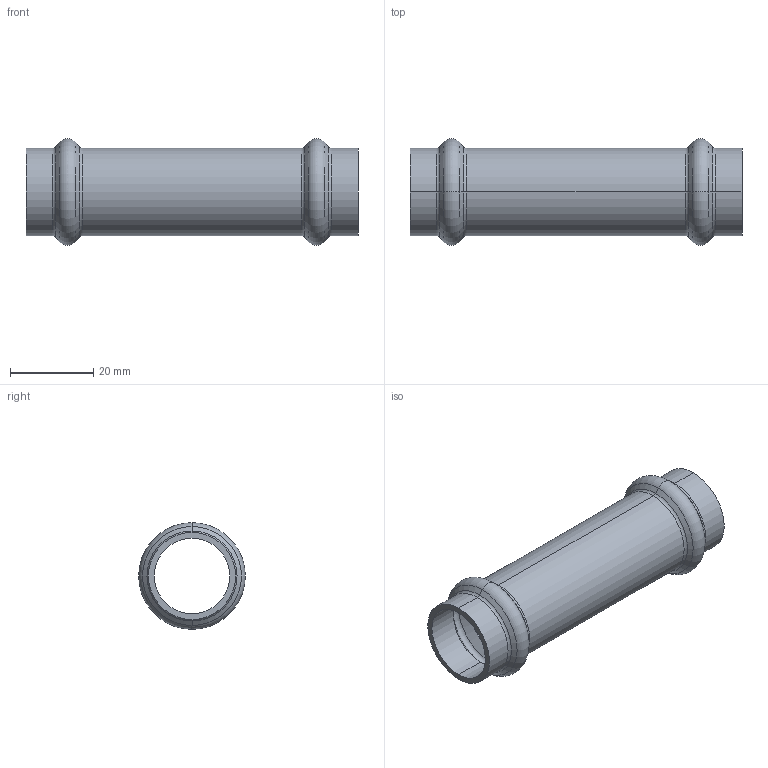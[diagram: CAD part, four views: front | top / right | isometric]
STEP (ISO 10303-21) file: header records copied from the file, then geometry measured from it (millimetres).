
FILE_DESCRIPTION (( 'STEP AP203' ), '1' );
FILE_NAME ('SP5275 18.STEP', '2017-04-24T09:22:14', ( '' ), ( '' ), 'SwSTEP 2.0', 'SolidWorks 2016', '' );
FILE_SCHEMA (( 'CONFIG_CONTROL_DESIGN' ));
Length unit declared in the file: millimetre
Products named in the file (1): SP5275 18
Bounding box: 80 x 25.7 x 25.7 mm (x, y, z)
Volume: 7383 mm3; surface area: 10769.3 mm2
Topology: 1 solids, 1 shells, 46 faces, 92 edges, 48 vertices
Faces by surface type: torus 16, cone 16, cylinder 12, plane 2
Entity records: 1261 total; most frequent: DIRECTION 250, CARTESIAN_POINT 187, ORIENTED_EDGE 184, AXIS2_PLACEMENT_3D 111, EDGE_CURVE 92, CIRCLE 64, EDGE_LOOP 48, VERTEX_POINT 48
